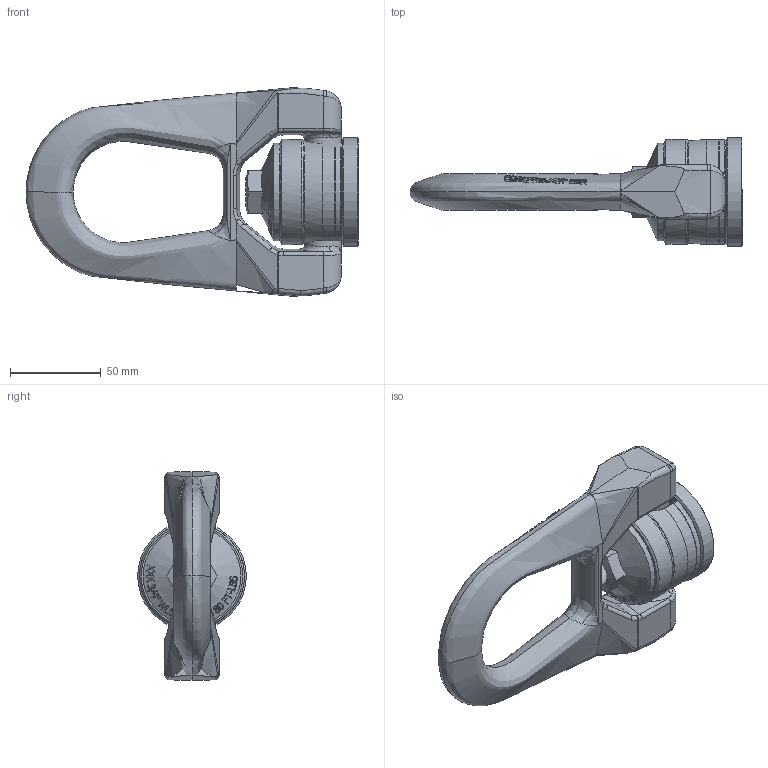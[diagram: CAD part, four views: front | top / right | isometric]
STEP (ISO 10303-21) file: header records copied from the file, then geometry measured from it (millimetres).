
FILE_DESCRIPTION(/* description */ (''),/* implementation_level */ '2;1');
FILE_NAME(/* name */ 'W:\CODIPRO\DOCUMENTS\Plans A NE PAS DIFFUSER !!!\Inventor\Standard Inventor\Produit Fini Inventor\SS_FE_DSR\Fichiers 3D\SS FE DSR U075.stp',/* time_stamp */ '2017-10-06T08:33:29+02:00',/* author */ ('rklenes'),/* organization */ (''),/* preprocessor_version */ 'ST-DEVELOPER v16.5',/* originating_system */ 'Autodesk Inventor 2017',/* authorisation */ '');
FILE_SCHEMA (('AUTOMOTIVE_DESIGN { 1 0 10303 214 3 1 1 }'));
Length unit declared in the file: millimetre
Products named in the file (5): FE DSR U075; SSB_B3B; DRM_AF3B; SS_FE_DRA_U075; SS_FE_DRE_M30A
Assembly tree (4 placements, depth 2):
  FE DSR U075
    SSB_B3B
    DRM_AF3B
    SS_FE_DRA_U075
    SS_FE_DRE_M30A
Bounding box: 183.25 x 60 x 115 mm (x, y, z)
Volume: 301863.7 mm3; surface area: 74300.8 mm2
Topology: 4 solids, 4 shells, 901 faces, 2402 edges, 1559 vertices
Faces by surface type: bspline 387, plane 378, cylinder 70, cone 50, torus 15, sphere 1
Full cylindrical faces by diameter (mm): 16.307 x1, 20 x2, 29.92 x3, 30.12 x1, 33.6 x2, 34 x2, 46 x1, 54 x1, 58 x1, 60 x1
Entity records: 50530 total; most frequent: CARTESIAN_POINT 30890, ORIENTED_EDGE 4704, DIRECTION 2930, EDGE_CURVE 2352, VERTEX_POINT 1550, AXIS2_PLACEMENT_3D 1036, EDGE_LOOP 998, FACE_OUTER_BOUND 900
